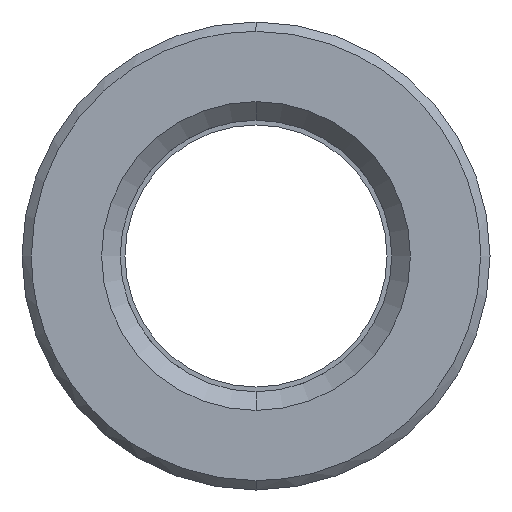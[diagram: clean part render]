
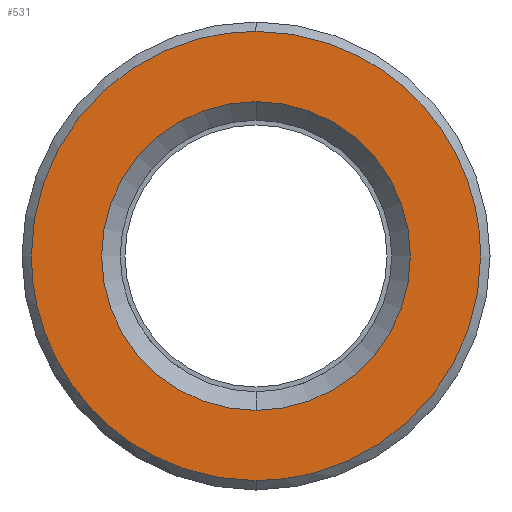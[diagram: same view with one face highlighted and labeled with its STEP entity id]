
A CAD part, left-side view. The second image highlights one B-rep face of the part: STEP entity #531.
In plain terms, the highlighted planar face has unit normal (-1, 0, 0).
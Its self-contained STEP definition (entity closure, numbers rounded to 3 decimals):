
#311=CARTESIAN_POINT('Axis2P3D Location',(0.,0.,0.)) ;
#315=CARTESIAN_POINT('Vertex',(0.,8.25,0.)) ;
#317=CARTESIAN_POINT('Vertex',(0.,0.,8.25)) ;
#320=CARTESIAN_POINT('Axis2P3D Location',(0.,0.,0.)) ;
#324=CARTESIAN_POINT('Vertex',(0.,0.,-8.25)) ;
#351=CARTESIAN_POINT('Axis2P3D Location',(0.,0.,0.)) ;
#355=CARTESIAN_POINT('Vertex',(0.,-8.25,0.)) ;
#358=CARTESIAN_POINT('Axis2P3D Location',(0.,0.,0.)) ;
#438=CARTESIAN_POINT('Axis2P3D Location',(0.,12.,0.)) ;
#444=CARTESIAN_POINT('Control Point',(0.,0.,-12.)) ;
#445=CARTESIAN_POINT('Control Point',(0.,0.982,-12.)) ;
#446=CARTESIAN_POINT('Control Point',(0.,1.964,-11.9)) ;
#447=CARTESIAN_POINT('Control Point',(0.,2.932,-11.699)) ;
#448=CARTESIAN_POINT('Control Point',(0.,5.011,-11.039)) ;
#449=CARTESIAN_POINT('Control Point',(0.,6.895,-9.93)) ;
#450=CARTESIAN_POINT('Control Point',(0.,7.845,-9.197)) ;
#451=CARTESIAN_POINT('Control Point',(0.,9.546,-7.512)) ;
#452=CARTESIAN_POINT('Control Point',(0.,10.784,-5.463)) ;
#453=CARTESIAN_POINT('Control Point',(0.,11.273,-4.367)) ;
#454=CARTESIAN_POINT('Control Point',(0.,11.741,-2.824)) ;
#455=CARTESIAN_POINT('Control Point',(0.,11.947,-1.236)) ;
#456=CARTESIAN_POINT('Control Point',(0.,11.982,-0.824)) ;
#457=CARTESIAN_POINT('Control Point',(0.,12.,-0.412)) ;
#458=CARTESIAN_POINT('Control Point',(0.,12.,0.)) ;
#459=CARTESIAN_POINT('Vertex',(0.,0.,-12.)) ;
#461=CARTESIAN_POINT('Vertex',(0.,12.,0.)) ;
#465=CARTESIAN_POINT('Control Point',(0.,-12.,0.)) ;
#466=CARTESIAN_POINT('Control Point',(0.,-12.,-1.188)) ;
#467=CARTESIAN_POINT('Control Point',(0.,-11.853,-2.376)) ;
#468=CARTESIAN_POINT('Control Point',(0.,-11.559,-3.54)) ;
#469=CARTESIAN_POINT('Control Point',(0.,-10.689,-5.77)) ;
#470=CARTESIAN_POINT('Control Point',(0.,-9.302,-7.721)) ;
#471=CARTESIAN_POINT('Control Point',(0.,-8.49,-8.605)) ;
#472=CARTESIAN_POINT('Control Point',(0.,-6.665,-10.155)) ;
#473=CARTESIAN_POINT('Control Point',(0.,-4.518,-11.213)) ;
#474=CARTESIAN_POINT('Control Point',(0.,-3.384,-11.606)) ;
#475=CARTESIAN_POINT('Control Point',(0.,-2.01,-11.897)) ;
#476=CARTESIAN_POINT('Control Point',(0.,-0.618,-11.987)) ;
#477=CARTESIAN_POINT('Control Point',(0.,-0.412,-11.996)) ;
#478=CARTESIAN_POINT('Control Point',(0.,-0.206,-12.)) ;
#479=CARTESIAN_POINT('Control Point',(0.,0.,-12.)) ;
#480=CARTESIAN_POINT('Vertex',(0.,-12.,0.)) ;
#484=CARTESIAN_POINT('Control Point',(0.,0.,12.)) ;
#485=CARTESIAN_POINT('Control Point',(0.,-0.982,12.)) ;
#486=CARTESIAN_POINT('Control Point',(0.,-1.964,11.9)) ;
#487=CARTESIAN_POINT('Control Point',(0.,-2.932,11.699)) ;
#488=CARTESIAN_POINT('Control Point',(0.,-5.011,11.039)) ;
#489=CARTESIAN_POINT('Control Point',(0.,-6.895,9.93)) ;
#490=CARTESIAN_POINT('Control Point',(0.,-7.845,9.197)) ;
#491=CARTESIAN_POINT('Control Point',(0.,-9.546,7.512)) ;
#492=CARTESIAN_POINT('Control Point',(0.,-10.784,5.463)) ;
#493=CARTESIAN_POINT('Control Point',(0.,-11.273,4.367)) ;
#494=CARTESIAN_POINT('Control Point',(0.,-11.741,2.824)) ;
#495=CARTESIAN_POINT('Control Point',(0.,-11.947,1.236)) ;
#496=CARTESIAN_POINT('Control Point',(0.,-11.982,0.824)) ;
#497=CARTESIAN_POINT('Control Point',(0.,-12.,0.412)) ;
#498=CARTESIAN_POINT('Control Point',(0.,-12.,0.)) ;
#499=CARTESIAN_POINT('Vertex',(0.,0.,12.)) ;
#503=CARTESIAN_POINT('Control Point',(0.,12.,0.)) ;
#504=CARTESIAN_POINT('Control Point',(0.,12.,1.188)) ;
#505=CARTESIAN_POINT('Control Point',(0.,11.853,2.376)) ;
#506=CARTESIAN_POINT('Control Point',(0.,11.559,3.54)) ;
#507=CARTESIAN_POINT('Control Point',(0.,10.689,5.77)) ;
#508=CARTESIAN_POINT('Control Point',(0.,9.302,7.721)) ;
#509=CARTESIAN_POINT('Control Point',(0.,8.49,8.605)) ;
#510=CARTESIAN_POINT('Control Point',(0.,6.665,10.155)) ;
#511=CARTESIAN_POINT('Control Point',(0.,4.518,11.213)) ;
#512=CARTESIAN_POINT('Control Point',(0.,3.384,11.606)) ;
#513=CARTESIAN_POINT('Control Point',(0.,2.01,11.897)) ;
#514=CARTESIAN_POINT('Control Point',(0.,0.618,11.987)) ;
#515=CARTESIAN_POINT('Control Point',(0.,0.412,11.996)) ;
#516=CARTESIAN_POINT('Control Point',(0.,0.206,12.)) ;
#517=CARTESIAN_POINT('Control Point',(0.,0.,12.)) ;
#312=DIRECTION('Axis2P3D Direction',(-1.,0.,0.)) ;
#321=DIRECTION('Axis2P3D Direction',(-1.,0.,0.)) ;
#352=DIRECTION('Axis2P3D Direction',(-1.,0.,0.)) ;
#359=DIRECTION('Axis2P3D Direction',(-1.,0.,0.)) ;
#439=DIRECTION('Axis2P3D Direction',(-1.,0.,0.)) ;
#440=DIRECTION('Axis2P3D XDirection',(0.,0.,1.)) ;
#313=AXIS2_PLACEMENT_3D('Circle Axis2P3D',#311,#312,$) ;
#322=AXIS2_PLACEMENT_3D('Circle Axis2P3D',#320,#321,$) ;
#353=AXIS2_PLACEMENT_3D('Circle Axis2P3D',#351,#352,$) ;
#360=AXIS2_PLACEMENT_3D('Circle Axis2P3D',#358,#359,$) ;
#441=AXIS2_PLACEMENT_3D('Plane Axis2P3D',#438,#439,#440) ;
#520=ORIENTED_EDGE('',*,*,#463,.F.) ;
#521=ORIENTED_EDGE('',*,*,#482,.F.) ;
#522=ORIENTED_EDGE('',*,*,#501,.F.) ;
#523=ORIENTED_EDGE('',*,*,#518,.F.) ;
#526=ORIENTED_EDGE('',*,*,#319,.T.) ;
#527=ORIENTED_EDGE('',*,*,#362,.T.) ;
#528=ORIENTED_EDGE('',*,*,#357,.T.) ;
#529=ORIENTED_EDGE('',*,*,#326,.T.) ;
#530=FACE_BOUND('',#525,.T.) ;
#531=ADVANCED_FACE('553-14x76',(#524,#530),#442,.T.) ;
#443=B_SPLINE_CURVE_WITH_KNOTS('',5,(#444,#445,#446,#447,#448,#449,#450,#451,#452,#453,#454,#455,#456,#457,#458),.UNSPECIFIED.,.F.,.U.,(6,3,3,3,6),(26.657,33.6,42.,50.399,53.312),.UNSPECIFIED.) ;
#464=B_SPLINE_CURVE_WITH_KNOTS('',5,(#465,#466,#467,#468,#469,#470,#471,#472,#473,#474,#475,#476,#477,#478,#479),.UNSPECIFIED.,.F.,.U.,(6,3,3,3,6),(0.,8.4,16.8,25.2,26.657),.UNSPECIFIED.) ;
#483=B_SPLINE_CURVE_WITH_KNOTS('',5,(#484,#485,#486,#487,#488,#489,#490,#491,#492,#493,#494,#495,#496,#497,#498),.UNSPECIFIED.,.F.,.U.,(6,3,3,3,6),(26.657,33.6,42.,50.399,53.312),.UNSPECIFIED.) ;
#502=B_SPLINE_CURVE_WITH_KNOTS('',5,(#503,#504,#505,#506,#507,#508,#509,#510,#511,#512,#513,#514,#515,#516,#517),.UNSPECIFIED.,.F.,.U.,(6,3,3,3,6),(0.,8.4,16.8,25.2,26.657),.UNSPECIFIED.) ;
#314=CIRCLE('generated circle',#313,8.25) ;
#323=CIRCLE('generated circle',#322,8.25) ;
#354=CIRCLE('generated circle',#353,8.25) ;
#361=CIRCLE('generated circle',#360,8.25) ;
#319=EDGE_CURVE('',#316,#318,#314,.F.) ;
#326=EDGE_CURVE('',#325,#316,#323,.F.) ;
#357=EDGE_CURVE('',#356,#325,#354,.F.) ;
#362=EDGE_CURVE('',#318,#356,#361,.F.) ;
#463=EDGE_CURVE('',#460,#462,#443,.T.) ;
#482=EDGE_CURVE('',#481,#460,#464,.T.) ;
#501=EDGE_CURVE('',#500,#481,#483,.T.) ;
#518=EDGE_CURVE('',#462,#500,#502,.T.) ;
#519=EDGE_LOOP('',(#520,#521,#522,#523)) ;
#525=EDGE_LOOP('',(#526,#527,#528,#529)) ;
#524=FACE_OUTER_BOUND('',#519,.T.) ;
#442=PLANE('Plane',#441) ;
#316=VERTEX_POINT('',#315) ;
#318=VERTEX_POINT('',#317) ;
#325=VERTEX_POINT('',#324) ;
#356=VERTEX_POINT('',#355) ;
#460=VERTEX_POINT('',#459) ;
#462=VERTEX_POINT('',#461) ;
#481=VERTEX_POINT('',#480) ;
#500=VERTEX_POINT('',#499) ;
